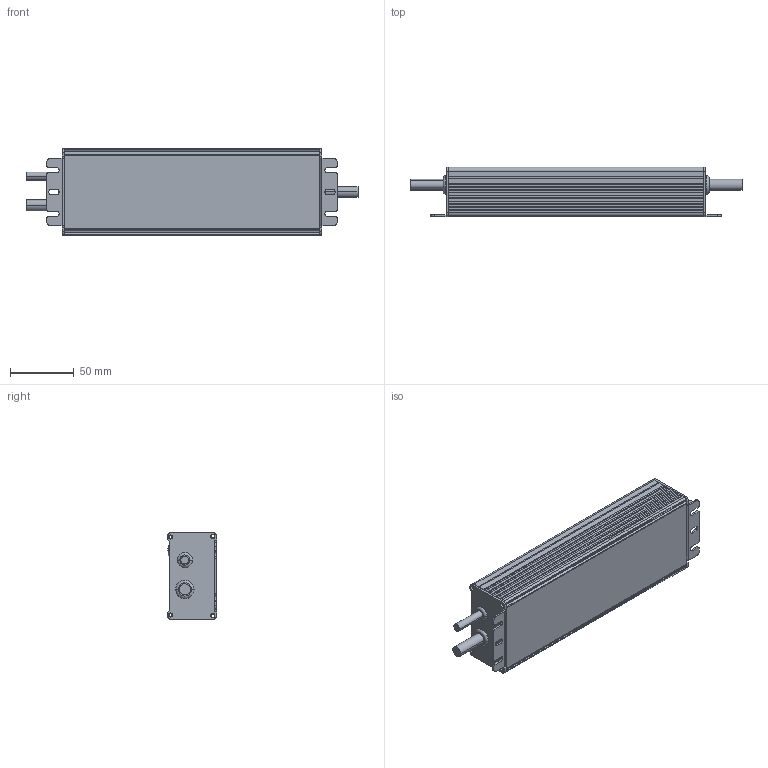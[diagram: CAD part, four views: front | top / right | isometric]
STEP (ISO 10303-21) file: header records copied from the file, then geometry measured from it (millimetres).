
FILE_DESCRIPTION((''),'2;1');
FILE_NAME('HLG-150_ASM','2023-11-01T09:34:23',('shalinice'),(''),'CREO PARAMETRIC BY PTC INC, 2017110','CREO PARAMETRIC BY PTC INC, 2017110','');
FILE_SCHEMA(('AUTOMOTIVE_DESIGN { 1 0 10303 214 1 1 1 1 }'));
Length unit declared in the file: millimetre
Products named in the file (9): 994B-D; 994D-T; 994LR-R; 994A-R; RING1; RING2; RING3; VRSAI; HLG-150_ASM
Assembly tree (9 placements, depth 2):
  HLG-150_ASM
    994B-D
    994D-T
    994LR-R
    994A-R
    RING1
    RING2
    RING3
    VRSAI  x2
Bounding box: 260.8 x 38.8 x 68 mm (x, y, z)
Volume: 99614.8 mm3; surface area: 111527.8 mm2
Topology: 9 solids, 9 shells, 453 faces, 1173 edges, 760 vertices
Faces by surface type: plane 205, cylinder 168, torus 44, cone 32, sphere 4
Entity records: 16347 total; most frequent: DIRECTION 2331, CARTESIAN_POINT 2212, ORIENTED_EDGE 2130, EDGE_CURVE 1065, AXIS2_PLACEMENT_3D 840, VERTEX_POINT 695, VECTOR 651, LINE 651
